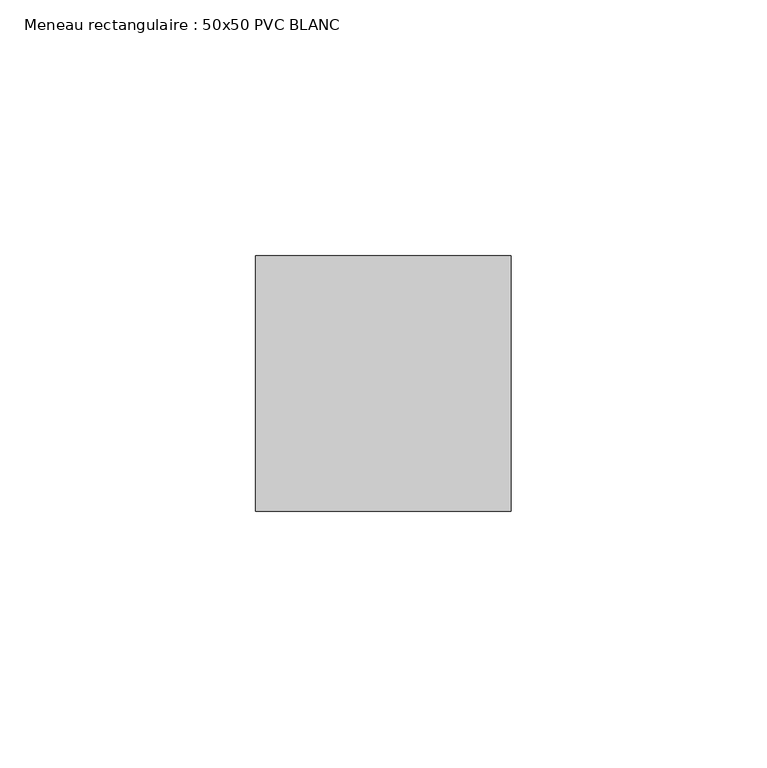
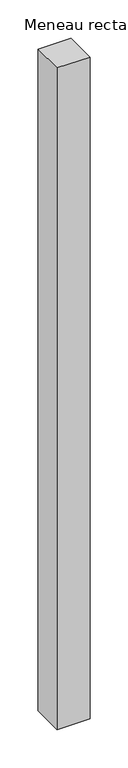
"""IFC4 building model written with IfcOpenShell, lengths in millimetres: member geometry, Meneau rectangulaire : 50x50 PVC BLANC."""

from ifc_helpers import new_model, si_unit, frame, origin, place, context, project, spatial, polyline, outline, extrude, source, transform, mapped, element, save


def meneau_rectangulaire_50x50_pvc_blanc_db36e2d7(model_context):
    return source(origin(), model_context, "Body", "SweptSolid", [
        extrude(outline(polyline([(0.0, 0.0), (0.0, -50.0), (-50.0, -50.0), (-50.0, 0.0), (0.0, 0.0)])), frame((0.0, 0.0, -1060.0), z_axis=(0.0, 0.0, 1.0), x_axis=(1.0, 0.0, 0.0)), (0.0, 0.0, 1.0), 1060.0),
    ])


if __name__ == "__main__":
    model = new_model("IFC4")
    model_context = context("Model", 3, world=origin())
    ifc_project = project(units=[si_unit("LENGTHUNIT", "METRE", prefix="MILLI")], contexts=[model_context])
    site = spatial("IfcSite", under=ifc_project)
    building = spatial("IfcBuilding", under=site)
    placement = place(None, origin())
    meneau_rectangulaire_50x50_pvc_blanc_shape = meneau_rectangulaire_50x50_pvc_blanc_db36e2d7(model_context)
    element("IfcMember", 1, ObjectType="Meneau rectangulaire : 50x50 PVC BLANC", at=placement, inside=building, context=model_context, shape_type="MappedRepresentation", body=[
        mapped(meneau_rectangulaire_50x50_pvc_blanc_shape, transform((0.0, 0.0, 0.0), x_axis=(1.0, 0.0, 0.0), y_axis=(0.0, 1.0, 0.0), z_axis=(0.0, 0.0, 1.0))),
    ])
    save(model, "model.ifc")
